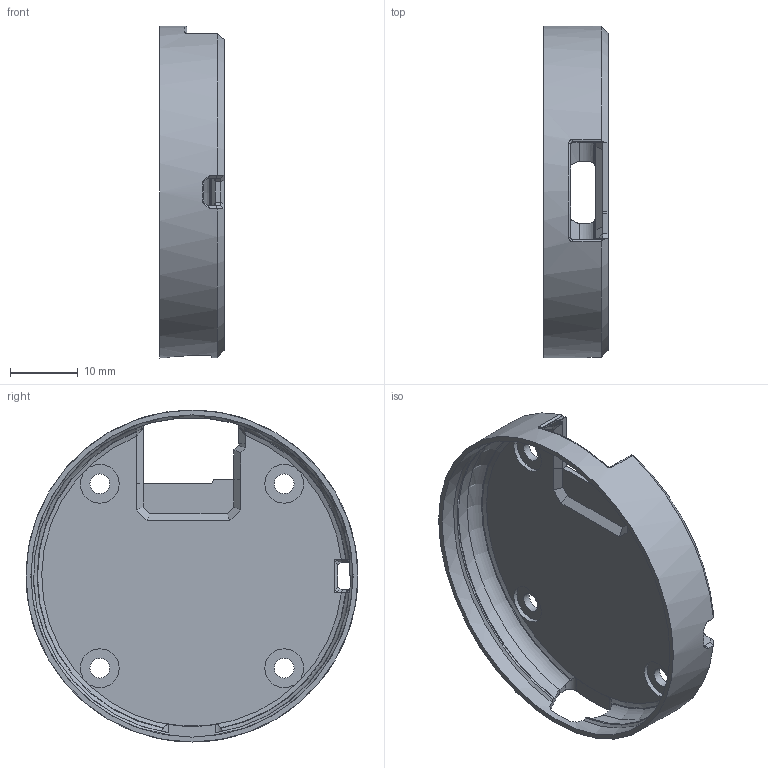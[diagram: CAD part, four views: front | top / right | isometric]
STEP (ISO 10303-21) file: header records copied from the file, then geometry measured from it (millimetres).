
FILE_DESCRIPTION(/* description */ (''),/* implementation_level */ '2;1');
FILE_NAME(/* name */ '',/* time_stamp */ '2025-09-18T17:16:43+08:00',/* author */ (''),/* organization */ (''),/* preprocessor_version */ 'ST-DEVELOPER v20.1',/* originating_system */ 'Autodesk Translation Framework v14.17.0.0',/* authorisation */ '');
FILE_SCHEMA (('AUTOMOTIVE_DESIGN { 1 0 10303 214 3 1 1 }'));
Products named in the file (1): 盖子
Bounding box: 9.47 x 49 x 49 mm (x, y, z)
Volume: 3702.4 mm3; surface area: 5980.6 mm2
Topology: 1 solids, 1 shells, 1137 faces, 3251 edges, 2145 vertices
Faces by surface type: bspline 929, plane 167, cylinder 23, torus 9, cone 8, sphere 1
Full cylindrical faces by diameter (mm): 2.9 x4, 5.727 x4, 47.568 x1, 49 x1
Entity records: 47610 total; most frequent: CARTESIAN_POINT 24463, ORIENTED_EDGE 6494, EDGE_CURVE 3247, VERTEX_POINT 2145, B_SPLINE_CURVE_WITH_KNOTS 1923, DIRECTION 1827, LINE 1207, VECTOR 1207
